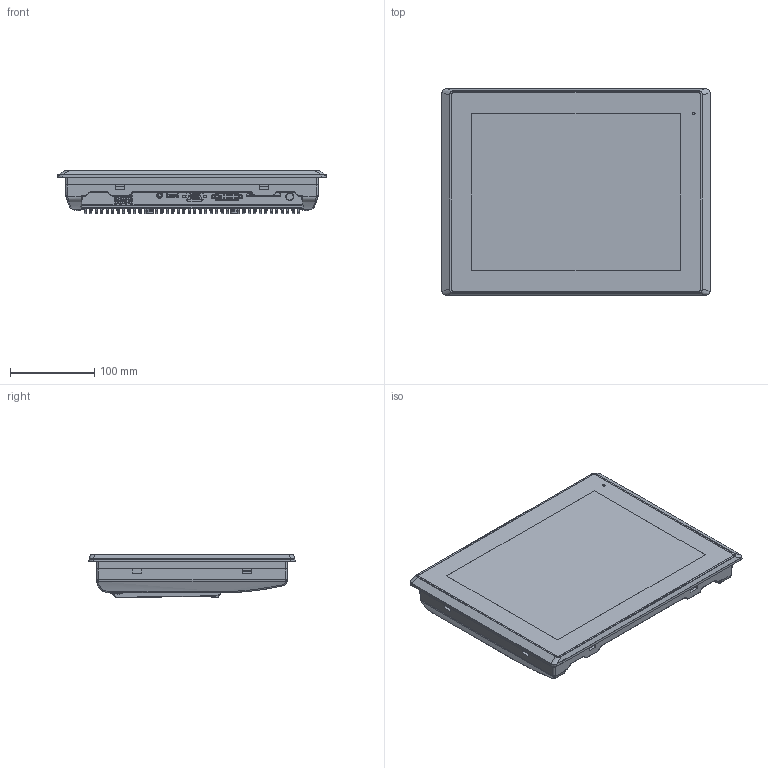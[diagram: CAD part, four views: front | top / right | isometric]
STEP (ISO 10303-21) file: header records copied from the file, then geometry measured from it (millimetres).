
FILE_DESCRIPTION (( 'STEP AP214' ), '1' );
FILE_NAME ('MON6012AP.STEP', '2022-05-06T19:29:50', ( '' ), ( '' ), 'SwSTEP 2.0', 'SolidWorks 2019', '' );
FILE_SCHEMA (( 'AUTOMOTIVE_DESIGN' ));
Length unit declared in the file: millimetre
Products named in the file (1): MON6012AP
Bounding box: 319 x 245 x 51.7 mm (x, y, z)
Surface area: 653535.4 mm2 (no closed solid volume)
Topology: 0 solids, 120 shells, 7959 faces, 21395 edges, 13702 vertices
Faces by surface type: plane 4822, cylinder 2099, bspline 439, torus 287, cone 171, sphere 141
Entity records: 364295 total; most frequent: CARTESIAN_POINT 201860, ORIENTED_EDGE 42646, EDGE_CURVE 21368, DIRECTION 19192, B_SPLINE_CURVE_WITH_KNOTS 17710, VERTEX_POINT 13688, EDGE_LOOP 8355, AXIS2_PLACEMENT_3D 8115
